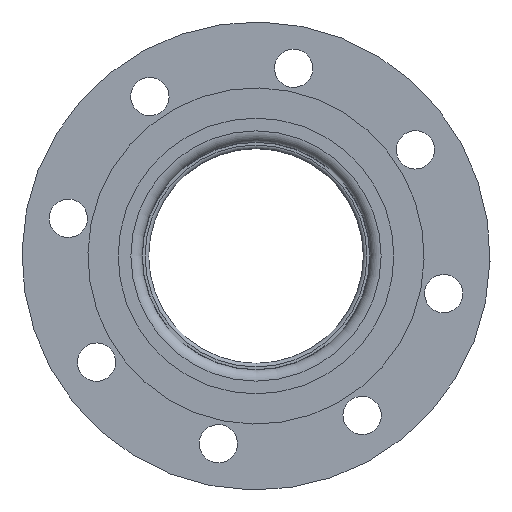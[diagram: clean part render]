
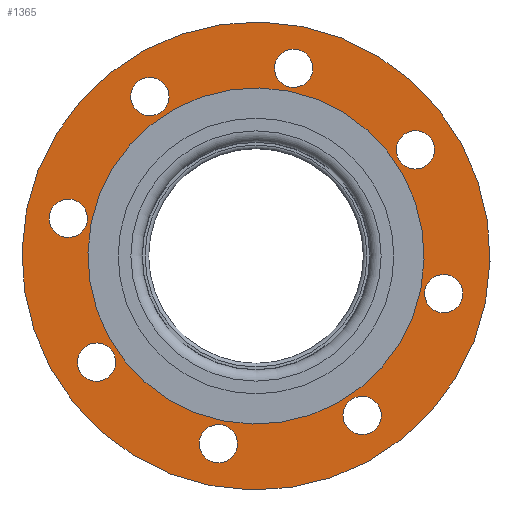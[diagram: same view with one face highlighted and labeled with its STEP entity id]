
A CAD part, left-side view. The second image highlights one B-rep face of the part: STEP entity #1365.
In plain terms, the highlighted planar face has unit normal (-1, 0, 0) as drawn and (0, 1, 0) by its records, which use the part's own axes.
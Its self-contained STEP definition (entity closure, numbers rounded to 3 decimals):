
#125 = CARTESIAN_POINT ( 'NONE',  ( 90., -2., 0. ) ) ;
#172 = DIRECTION ( 'NONE',  ( 0., 1., 0. ) ) ;
#182 = AXIS2_PLACEMENT_3D ( 'NONE', #6962, #13089, #9865 ) ;
#231 = VERTEX_POINT ( 'NONE', #320 ) ;
#241 = ORIENTED_EDGE ( 'NONE', *, *, #17146, .F. ) ;
#312 = DIRECTION ( 'NONE',  ( -1., 0., 0. ) ) ;
#320 = CARTESIAN_POINT ( 'NONE',  ( -99., -2., 0. ) ) ;
#575 = EDGE_CURVE ( 'NONE', #10840, #10840, #13533, .T. ) ;
#1330 = PLANE ( 'NONE',  #15129 ) ;
#1339 = CARTESIAN_POINT ( 'NONE',  ( -63.64, -2., -63.64 ) ) ;
#1365 = ADVANCED_FACE ( 'NONE', ( #18403, #10467, #2928, #2835, #13485, #1433, #16515, #7559, #7655, #13687 ), #1330, .T. ) ;
#1433 = FACE_BOUND ( 'NONE', #16070, .T. ) ;
#1590 = CARTESIAN_POINT ( 'NONE',  ( 0., -2., -90. ) ) ;
#1891 = DIRECTION ( 'NONE',  ( 0., 1., 0. ) ) ;
#2008 = CARTESIAN_POINT ( 'NONE',  ( 79., -2., 0. ) ) ;
#2497 = VERTEX_POINT ( 'NONE', #10328 ) ;
#2738 = DIRECTION ( 'NONE',  ( -1., 0., 0. ) ) ;
#2835 = FACE_BOUND ( 'NONE', #13803, .T. ) ;
#2928 = FACE_BOUND ( 'NONE', #7679, .T. ) ;
#3002 = DIRECTION ( 'NONE',  ( 0., 1., 0. ) ) ;
#3156 = EDGE_CURVE ( 'NONE', #14268, #14268, #16723, .T. ) ;
#3435 = DIRECTION ( 'NONE',  ( 1., 0., 0. ) ) ;
#3861 = CIRCLE ( 'NONE', #5164, 9. ) ;
#4248 = EDGE_CURVE ( 'NONE', #2497, #2497, #3861, .T. ) ;
#4452 = EDGE_LOOP ( 'NONE', ( #10899 ) ) ;
#4824 = AXIS2_PLACEMENT_3D ( 'NONE', #1339, #7473, #15002 ) ;
#4827 = DIRECTION ( 'NONE',  ( 0., 1., 0. ) ) ;
#5164 = AXIS2_PLACEMENT_3D ( 'NONE', #125, #4827, #312 ) ;
#5395 = ORIENTED_EDGE ( 'NONE', *, *, #4248, .F. ) ;
#5418 = ORIENTED_EDGE ( 'NONE', *, *, #3156, .T. ) ;
#5480 = CIRCLE ( 'NONE', #9644, 9. ) ;
#5501 = EDGE_CURVE ( 'NONE', #11440, #11440, #9333, .T. ) ;
#5509 = CIRCLE ( 'NONE', #7120, 110. ) ;
#5883 = DIRECTION ( 'NONE',  ( 0., -1., 0. ) ) ;
#6391 = DIRECTION ( 'NONE',  ( -1., 0., 0. ) ) ;
#6448 = VERTEX_POINT ( 'NONE', #12579 ) ;
#6515 = EDGE_LOOP ( 'NONE', ( #17580 ) ) ;
#6962 = CARTESIAN_POINT ( 'NONE',  ( 0., -2., 90. ) ) ;
#7020 = CARTESIAN_POINT ( 'NONE',  ( -9., -2., -90. ) ) ;
#7120 = AXIS2_PLACEMENT_3D ( 'NONE', #19636, #5883, #12009 ) ;
#7190 = CARTESIAN_POINT ( 'NONE',  ( 63.64, -2., -63.64 ) ) ;
#7473 = DIRECTION ( 'NONE',  ( 0., 1., 0. ) ) ;
#7559 = FACE_BOUND ( 'NONE', #7754, .T. ) ;
#7655 = FACE_BOUND ( 'NONE', #15013, .T. ) ;
#7666 = VERTEX_POINT ( 'NONE', #13698 ) ;
#7679 = EDGE_LOOP ( 'NONE', ( #15476 ) ) ;
#7754 = EDGE_LOOP ( 'NONE', ( #10252 ) ) ;
#8119 = DIRECTION ( 'NONE',  ( -1., 0., 0. ) ) ;
#8255 = CARTESIAN_POINT ( 'NONE',  ( 0., -2., 0. ) ) ;
#8451 = CIRCLE ( 'NONE', #17452, 9. ) ;
#8489 = ORIENTED_EDGE ( 'NONE', *, *, #5501, .F. ) ;
#8808 = ORIENTED_EDGE ( 'NONE', *, *, #11622, .F. ) ;
#8843 = CIRCLE ( 'NONE', #182, 9. ) ;
#8849 = CARTESIAN_POINT ( 'NONE',  ( 110., -2., 0. ) ) ;
#8863 = DIRECTION ( 'NONE',  ( 0., 1., 0. ) ) ;
#9134 = DIRECTION ( 'NONE',  ( -1., 0., 0. ) ) ;
#9331 = CIRCLE ( 'NONE', #4824, 9. ) ;
#9333 = CIRCLE ( 'NONE', #13523, 9. ) ;
#9644 = AXIS2_PLACEMENT_3D ( 'NONE', #19421, #14796, #11878 ) ;
#9865 = DIRECTION ( 'NONE',  ( -1., 0., 0. ) ) ;
#10252 = ORIENTED_EDGE ( 'NONE', *, *, #14476, .F. ) ;
#10328 = CARTESIAN_POINT ( 'NONE',  ( 81., -2., 0. ) ) ;
#10467 = FACE_BOUND ( 'NONE', #4452, .T. ) ;
#10703 = CIRCLE ( 'NONE', #13274, 9. ) ;
#10840 = VERTEX_POINT ( 'NONE', #19696 ) ;
#10899 = ORIENTED_EDGE ( 'NONE', *, *, #575, .F. ) ;
#11036 = CARTESIAN_POINT ( 'NONE',  ( 110., -2., 0. ) ) ;
#11440 = VERTEX_POINT ( 'NONE', #7020 ) ;
#11616 = CARTESIAN_POINT ( 'NONE',  ( 54.64, -2., -63.64 ) ) ;
#11622 = EDGE_CURVE ( 'NONE', #12927, #12927, #8451, .T. ) ;
#11878 = DIRECTION ( 'NONE',  ( -1., 0., 0. ) ) ;
#12009 = DIRECTION ( 'NONE',  ( 1., 0., 0. ) ) ;
#12401 = EDGE_CURVE ( 'NONE', #231, #231, #10703, .T. ) ;
#12579 = CARTESIAN_POINT ( 'NONE',  ( 54.64, -2., 63.64 ) ) ;
#12868 = EDGE_CURVE ( 'NONE', #7666, #7666, #8843, .T. ) ;
#12927 = VERTEX_POINT ( 'NONE', #11616 ) ;
#13089 = DIRECTION ( 'NONE',  ( 0., 1., 0. ) ) ;
#13274 = AXIS2_PLACEMENT_3D ( 'NONE', #18550, #172, #6391 ) ;
#13485 = FACE_BOUND ( 'NONE', #17380, .T. ) ;
#13523 = AXIS2_PLACEMENT_3D ( 'NONE', #1590, #1891, #8119 ) ;
#13533 = CIRCLE ( 'NONE', #18648, 9. ) ;
#13687 = FACE_OUTER_BOUND ( 'NONE', #17287, .T. ) ;
#13698 = CARTESIAN_POINT ( 'NONE',  ( -9., -2., 90. ) ) ;
#13803 = EDGE_LOOP ( 'NONE', ( #15142 ) ) ;
#14268 = VERTEX_POINT ( 'NONE', #2008 ) ;
#14385 = DIRECTION ( 'NONE',  ( 0., -1., 0. ) ) ;
#14476 = EDGE_CURVE ( 'NONE', #6448, #6448, #5480, .T. ) ;
#14571 = EDGE_CURVE ( 'NONE', #17303, #17303, #9331, .T. ) ;
#14713 = DIRECTION ( 'NONE',  ( -1., 0., 0. ) ) ;
#14783 = AXIS2_PLACEMENT_3D ( 'NONE', #8255, #14385, #3435 ) ;
#14796 = DIRECTION ( 'NONE',  ( 0., 1., 0. ) ) ;
#15002 = DIRECTION ( 'NONE',  ( -1., 0., 0. ) ) ;
#15013 = EDGE_LOOP ( 'NONE', ( #5418 ) ) ;
#15129 = AXIS2_PLACEMENT_3D ( 'NONE', #11036, #8863, #2738 ) ;
#15142 = ORIENTED_EDGE ( 'NONE', *, *, #14571, .F. ) ;
#15476 = ORIENTED_EDGE ( 'NONE', *, *, #12401, .F. ) ;
#15810 = EDGE_LOOP ( 'NONE', ( #5395 ) ) ;
#16070 = EDGE_LOOP ( 'NONE', ( #8808 ) ) ;
#16515 = FACE_BOUND ( 'NONE', #15810, .T. ) ;
#16723 = CIRCLE ( 'NONE', #14783, 79. ) ;
#17146 = EDGE_CURVE ( 'NONE', #17982, #17982, #5509, .T. ) ;
#17287 = EDGE_LOOP ( 'NONE', ( #241 ) ) ;
#17303 = VERTEX_POINT ( 'NONE', #18905 ) ;
#17380 = EDGE_LOOP ( 'NONE', ( #8489 ) ) ;
#17452 = AXIS2_PLACEMENT_3D ( 'NONE', #7190, #18027, #14713 ) ;
#17580 = ORIENTED_EDGE ( 'NONE', *, *, #12868, .F. ) ;
#17982 = VERTEX_POINT ( 'NONE', #8849 ) ;
#18027 = DIRECTION ( 'NONE',  ( 0., 1., 0. ) ) ;
#18273 = CARTESIAN_POINT ( 'NONE',  ( -63.64, -2., 63.64 ) ) ;
#18403 = FACE_BOUND ( 'NONE', #6515, .T. ) ;
#18550 = CARTESIAN_POINT ( 'NONE',  ( -90., -2., 0. ) ) ;
#18648 = AXIS2_PLACEMENT_3D ( 'NONE', #18273, #3002, #9134 ) ;
#18905 = CARTESIAN_POINT ( 'NONE',  ( -72.64, -2., -63.64 ) ) ;
#19421 = CARTESIAN_POINT ( 'NONE',  ( 63.64, -2., 63.64 ) ) ;
#19636 = CARTESIAN_POINT ( 'NONE',  ( 0., -2., 0. ) ) ;
#19696 = CARTESIAN_POINT ( 'NONE',  ( -72.64, -2., 63.64 ) ) ;
